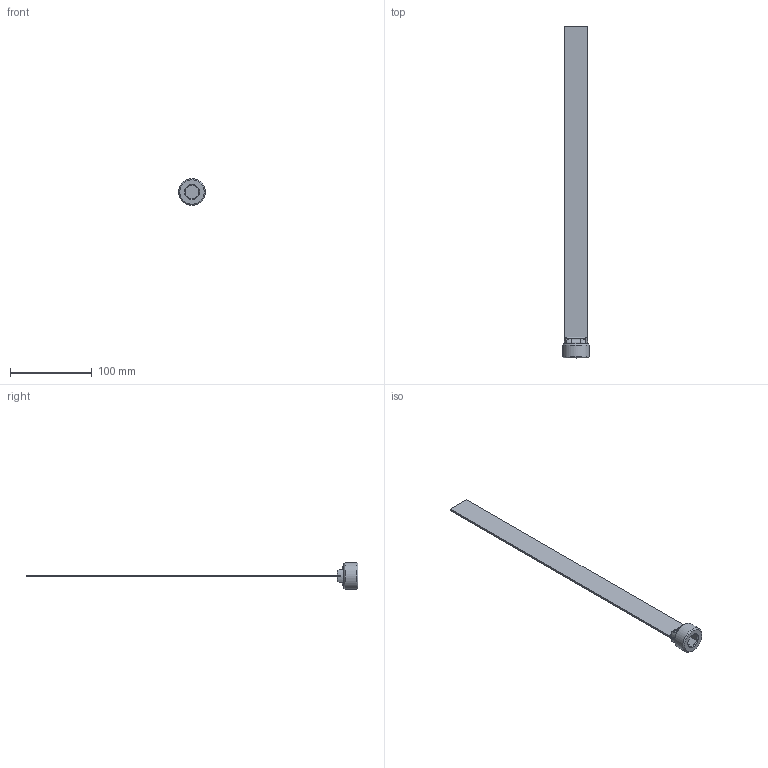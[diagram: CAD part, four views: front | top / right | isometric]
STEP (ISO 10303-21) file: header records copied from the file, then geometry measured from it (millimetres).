
FILE_DESCRIPTION(/* description */ (''),/* implementation_level */ '2;1');
FILE_NAME(/* name */ 'C:/Users/drich/Desktop/SB1X16 BSP v1.step',/* time_stamp */ '2020-01-04T16:00:47-06:00',/* author */ (''),/* organization */ (''),/* preprocessor_version */ 'ST-DEVELOPER v18',/* originating_system */ 'Autodesk Translation Framework v8.12.0.6',/* authorisation */ '');
FILE_SCHEMA (('AUTOMOTIVE_DESIGN { 1 0 10303 214 3 1 1 }'));
Length unit declared in the file: inch
Products named in the file (1): SB1X16 BSP
Bounding box: 33.07 x 406.4 x 33.07 mm (x, y, z)
Volume: 40154.9 mm3; surface area: 28065.4 mm2
Topology: 1 solids, 1 shells, 42 faces, 110 edges, 72 vertices
Faces by surface type: plane 20, cylinder 8, torus 7, bspline 4, cone 3
Full cylindrical faces by diameter (mm): 28.169 x1, 33.069 x1
Entity records: 1673 total; most frequent: CARTESIAN_POINT 637, ORIENTED_EDGE 220, DIRECTION 193, EDGE_CURVE 110, AXIS2_PLACEMENT_3D 74, VERTEX_POINT 72, LINE 45, VECTOR 45
